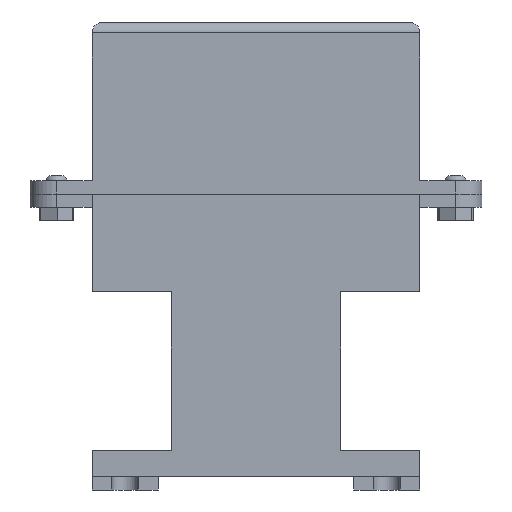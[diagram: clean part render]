
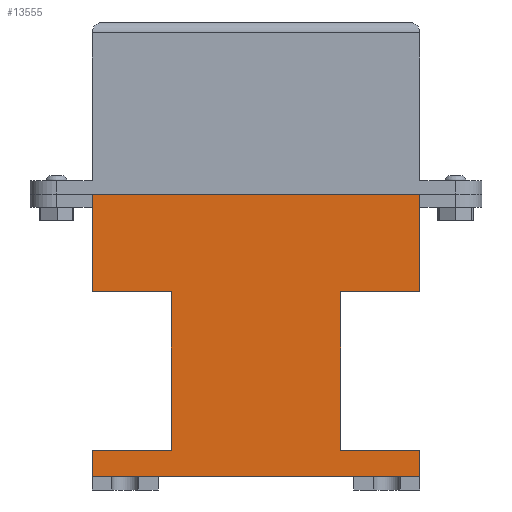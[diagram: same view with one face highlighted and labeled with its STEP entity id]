
A CAD part, left-side view. The second image highlights one B-rep face of the part: STEP entity #13555.
In plain terms, the highlighted planar face has unit normal (-1, 0, 0).
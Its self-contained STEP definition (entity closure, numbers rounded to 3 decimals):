
#1345=FACE_OUTER_BOUND('',#2119,.T.);
#2119=EDGE_LOOP('',(#11411,#11412,#11413,#11414,#11415,#11416,#11417,#11418,
#11419,#11420,#11421,#11422));
#3314=LINE('',#22874,#4776);
#3329=LINE('',#22910,#4791);
#3335=LINE('',#22922,#4797);
#3345=LINE('',#22938,#4807);
#3350=LINE('',#22949,#4812);
#3353=LINE('',#22954,#4815);
#3387=LINE('',#23037,#4849);
#3388=LINE('',#23040,#4850);
#3390=LINE('',#23043,#4852);
#3391=LINE('',#23045,#4853);
#3393=LINE('',#23049,#4855);
#3394=LINE('',#23051,#4856);
#4776=VECTOR('',#16195,10.);
#4791=VECTOR('',#16220,10.);
#4797=VECTOR('',#16230,10.);
#4807=VECTOR('',#16242,10.);
#4812=VECTOR('',#16251,10.);
#4815=VECTOR('',#16256,10.);
#4849=VECTOR('',#16352,10.);
#4850=VECTOR('',#16355,10.);
#4852=VECTOR('',#16359,10.);
#4853=VECTOR('',#16362,10.);
#4855=VECTOR('',#16366,10.);
#4856=VECTOR('',#16369,10.);
#6185=VERTEX_POINT('',#22871);
#6186=VERTEX_POINT('',#22873);
#6201=VERTEX_POINT('',#22907);
#6202=VERTEX_POINT('',#22909);
#6205=VERTEX_POINT('',#22919);
#6206=VERTEX_POINT('',#22921);
#6214=VERTEX_POINT('',#22946);
#6215=VERTEX_POINT('',#22948);
#6216=VERTEX_POINT('',#22952);
#6234=VERTEX_POINT('',#23035);
#6235=VERTEX_POINT('',#23039);
#6236=VERTEX_POINT('',#23047);
#7945=EDGE_CURVE('',#6186,#6185,#3314,.T.);
#7963=EDGE_CURVE('',#6202,#6201,#3329,.T.);
#7969=EDGE_CURVE('',#6206,#6205,#3335,.T.);
#7979=EDGE_CURVE('',#6186,#6205,#3345,.T.);
#7984=EDGE_CURVE('',#6214,#6215,#3350,.T.);
#7987=EDGE_CURVE('',#6214,#6216,#3353,.T.);
#8027=EDGE_CURVE('',#6185,#6234,#3387,.T.);
#8028=EDGE_CURVE('',#6235,#6202,#3388,.T.);
#8030=EDGE_CURVE('',#6234,#6235,#3390,.T.);
#8031=EDGE_CURVE('',#6216,#6206,#3391,.T.);
#8033=EDGE_CURVE('',#6201,#6236,#3393,.T.);
#8034=EDGE_CURVE('',#6215,#6236,#3394,.T.);
#11411=ORIENTED_EDGE('',*,*,#8030,.T.);
#11412=ORIENTED_EDGE('',*,*,#8028,.T.);
#11413=ORIENTED_EDGE('',*,*,#7963,.T.);
#11414=ORIENTED_EDGE('',*,*,#8033,.T.);
#11415=ORIENTED_EDGE('',*,*,#8034,.F.);
#11416=ORIENTED_EDGE('',*,*,#7984,.F.);
#11417=ORIENTED_EDGE('',*,*,#7987,.T.);
#11418=ORIENTED_EDGE('',*,*,#8031,.T.);
#11419=ORIENTED_EDGE('',*,*,#7969,.T.);
#11420=ORIENTED_EDGE('',*,*,#7979,.F.);
#11421=ORIENTED_EDGE('',*,*,#7945,.T.);
#11422=ORIENTED_EDGE('',*,*,#8027,.T.);
#12787=PLANE('',#14214);
#13555=ADVANCED_FACE('',(#1345),#12787,.T.);
#14214=AXIS2_PLACEMENT_3D('',#23050,#16367,#16368);
#16195=DIRECTION('',(0.,1.,0.));
#16220=DIRECTION('',(0.,1.,0.));
#16230=DIRECTION('',(0.,-1.,0.));
#16242=DIRECTION('',(0.,0.,-1.));
#16251=DIRECTION('',(0.,0.,-1.));
#16256=DIRECTION('',(0.,1.,0.));
#16352=DIRECTION('',(0.,0.,-1.));
#16355=DIRECTION('',(0.,0.,-1.));
#16359=DIRECTION('',(0.,-1.,0.));
#16362=DIRECTION('',(0.,0.,1.));
#16366=DIRECTION('',(0.,0.,-1.));
#16367=DIRECTION('center_axis',(-1.,0.,0.));
#16368=DIRECTION('ref_axis',(0.,1.,0.));
#16369=DIRECTION('',(0.,1.,0.));
#22871=CARTESIAN_POINT('',(-10.,124.,0.));
#22873=CARTESIAN_POINT('',(-10.,0.,0.));
#22874=CARTESIAN_POINT('',(-10.,0.,0.));
#22907=CARTESIAN_POINT('',(-10.,124.,-97.));
#22909=CARTESIAN_POINT('',(-10.,94.,-97.));
#22910=CARTESIAN_POINT('',(-10.,47.,-97.));
#22919=CARTESIAN_POINT('',(-10.,0.,-37.));
#22921=CARTESIAN_POINT('',(-10.,30.,-37.));
#22922=CARTESIAN_POINT('',(-10.,15.,-37.));
#22938=CARTESIAN_POINT('',(-10.,0.,0.));
#22946=CARTESIAN_POINT('',(-10.,0.,-97.));
#22948=CARTESIAN_POINT('',(-10.,0.,-107.));
#22949=CARTESIAN_POINT('',(-10.,0.,0.));
#22952=CARTESIAN_POINT('',(-10.,30.,-97.));
#22954=CARTESIAN_POINT('',(-10.,0.,-97.));
#23035=CARTESIAN_POINT('',(-10.,124.,-37.));
#23037=CARTESIAN_POINT('',(-10.,124.,0.));
#23039=CARTESIAN_POINT('',(-10.,94.,-37.));
#23040=CARTESIAN_POINT('',(-10.,94.,-18.5));
#23043=CARTESIAN_POINT('',(-10.,62.,-37.));
#23045=CARTESIAN_POINT('',(-10.,30.,-48.5));
#23047=CARTESIAN_POINT('',(-10.,124.,-107.));
#23049=CARTESIAN_POINT('',(-10.,124.,0.));
#23050=CARTESIAN_POINT('Origin',(-10.,0.,0.));
#23051=CARTESIAN_POINT('',(-10.,0.,-107.));
